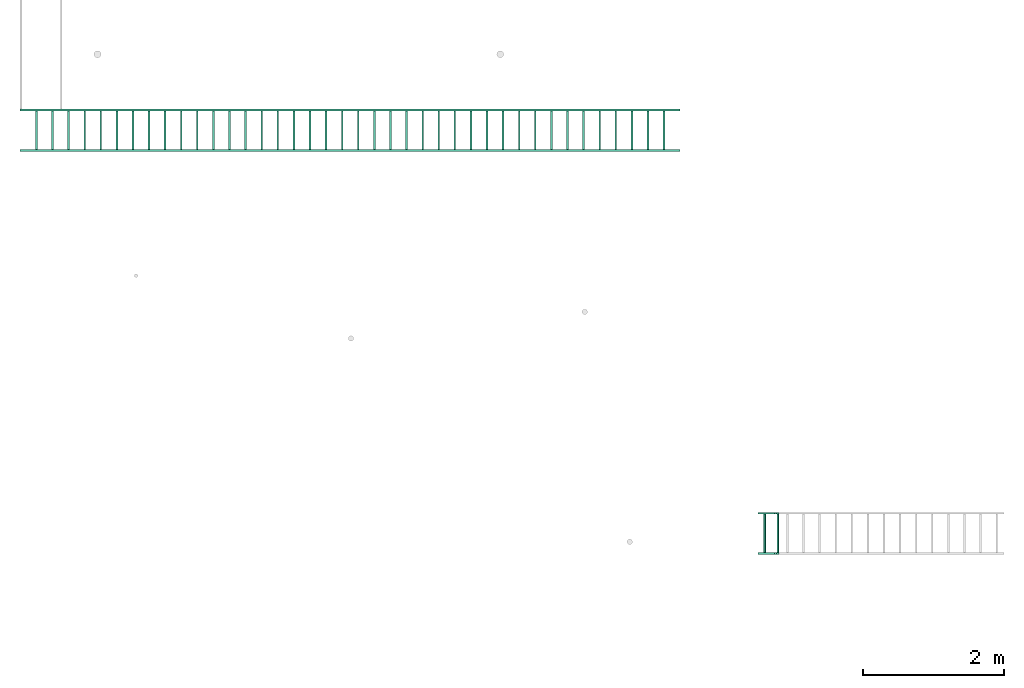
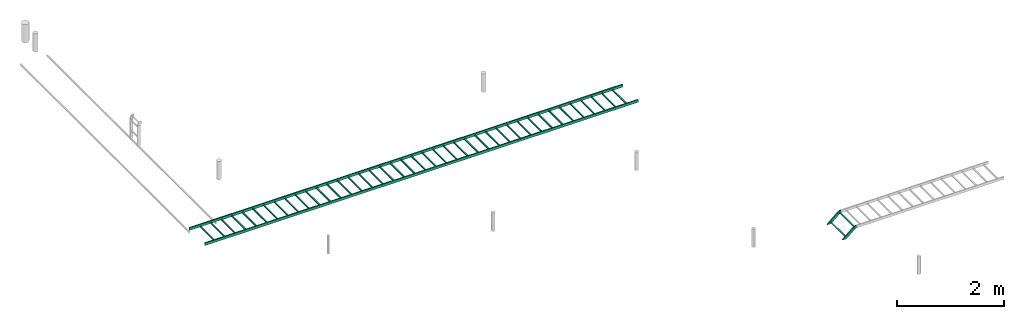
# One storey, part 2 of 5: 2 flow segments, 1 flow fitting.
"""IFC2X3 building model written with IfcOpenShell, lengths in millimetres."""

from ifc_helpers import new_model, entity, si_unit, converted_unit, derived_unit, direction, frame, origin_with_axes, place, context, subcontext, project, spatial, open_shell, faceted_brep, surface_model, source, transform, mapped, type_object, element, save


model = new_model("IFC2X3")

# Units and contexts
model_context = context("Model", 3, precision=0.01, world=frame((0.0, 4.29681676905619e-09, 0.0)), true_north=direction((4.01073788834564e-13, 1.0)))
plan_context = context("Plan", 3, precision=0.01, world=frame((0.0, 4.29681676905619e-09, 0.0)), true_north=direction((4.01073788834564e-13, 1.0)))
body_context = subcontext(model_context, "Body", "Model", "MODEL_VIEW")
ifc_project = project(units=[converted_unit("PLANEANGLEUNIT", "DEGREE", entity("IfcPositiveLengthMeasure", 0.0174532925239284), si_unit("PLANEANGLEUNIT", "RADIAN"), dimensions=[0, 0, 0, 0, 0, 0, 0]), si_unit("AREAUNIT", "SQUARE_METRE"), si_unit("LENGTHUNIT", "METRE", prefix="MILLI"), si_unit("MASSUNIT", "GRAM", prefix="KILO"), si_unit("POWERUNIT", "WATT"), si_unit("PRESSUREUNIT", "PASCAL"), si_unit("FORCEUNIT", "NEWTON", prefix="KILO"), si_unit("ELECTRICCURRENTUNIT", "AMPERE"), si_unit("THERMODYNAMICTEMPERATUREUNIT", "DEGREE_CELSIUS"), si_unit("TIMEUNIT", "SECOND"), si_unit("VOLUMEUNIT", "CUBIC_METRE"), derived_unit("LINEARVELOCITYUNIT", [(si_unit("LENGTHUNIT", "METRE"), 1), (si_unit("TIMEUNIT", "SECOND"), -1)]), derived_unit("VOLUMETRICFLOWRATEUNIT", [(si_unit("VOLUMEUNIT", "CUBIC_METRE"), 1), (si_unit("TIMEUNIT", "SECOND"), -1)]), derived_unit("THERMALTRANSMITTANCEUNIT", [(si_unit("POWERUNIT", "WATT"), 1), (si_unit("THERMODYNAMICTEMPERATUREUNIT", "KELVIN"), -1), (si_unit("AREAUNIT", "SQUARE_METRE"), -1)])], contexts=[model_context, plan_context])

# Site, building, storey
site_placement = place(None, frame((0.0, -4.29681676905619e-09, 0.0), z_axis=(0.0, 0.0, 1.0), x_axis=(1.0, 0.0, 0.0)))
site = spatial("IfcSite", under=ifc_project, at=site_placement, Name="ENGM", CompositionType="ELEMENT")
building_placement = place(site_placement, frame((0.0, 4.29681676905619e-09, 0.0), z_axis=(0.0, 0.0, 1.0), x_axis=(1.0, 0.0, 0.0)))
building = spatial("IfcBuilding", under=site, at=building_placement, Name="TS", CompositionType="ELEMENT")
storey_placement = place(building_placement, frame((0.0, 0.0, 200300.0), z_axis=(0.0, 0.0, 1.0), x_axis=(1.0, 0.0, 0.0)))
storey = spatial("IfcBuildingStorey", under=building, at=storey_placement, Name="Nivå C", CompositionType="ELEMENT", Elevation=200300.0)

# Flow fitting
cable_carrier_fitting_type = type_object("IfcCableCarrierFittingType", Name="Standard 10mm", PredefinedType="BEND")
shared_shape_1 = source(origin_with_axes(), body_context, "Body", "SurfaceModel", [
    surface_model("IfcShellBasedSurfaceModel", [(0.44242, 35.08091, 274.60001), (9.33769, 11.28944, -274.60001), (0.44242, 35.08091, -274.60001), (9.33769, 11.28944, 274.60001), (-14.45378, 2.39417, 274.60001), (-14.45378, 2.39417, -274.60001), (-23.34905, 26.18565, -274.60001), (-23.34905, 26.18565, 274.60001), (-24.95539, 30.0, 300.0), (-24.95539, 30.0, 274.60001), (-24.95539, -30.0, 274.60001), (-24.95539, -30.0, 300.0), (-24.95539, 30.0, -274.60001), (-24.95539, 30.0, -300.0), (-24.95539, -30.0, -300.0), (-24.95539, -30.0, -274.60001), (-14.95539, 30.0, 274.60001), (-14.95539, 30.0, 300.0), (-14.95539, -30.0, 274.60001), (-11.45331, 30.63328, 274.60001), (9.55913, -25.56705, 274.60001), (-8.3948, 32.4529, 274.60001), (-0.8477, 39.01349, 274.60001), (30.96874, -12.82967, 274.60001), (38.51584, -6.26908, 274.60001), (-14.95539, -30.0, 300.0), (-11.45331, 30.63328, 300.0), (9.55913, -25.56705, 300.0), (30.96874, -12.82967, 300.0), (-8.3948, 32.4529, 300.0), (-0.8477, 39.01349, 300.0), (38.51584, -6.26908, 300.0), (-14.95539, 30.0, -300.0), (-14.95539, 30.0, -274.60001), (-14.95539, -30.0, -300.0), (-11.45331, 30.63328, -300.0), (9.55913, -25.56705, -300.0), (-8.3948, 32.4529, -300.0), (-0.8477, 39.01349, -300.0), (30.96874, -12.82967, -300.0), (38.51584, -6.26908, -300.0), (-14.95539, -30.0, -274.60001), (-11.45331, 30.63328, -274.60001), (9.55913, -25.56705, -274.60001), (30.96874, -12.82967, -274.60001), (-8.3948, 32.4529, -274.60001), (-0.8477, 39.01349, -274.60001), (38.51584, -6.26908, -274.60001), (-2.69813, -27.78353, 300.0), (-2.69813, -27.78353, 274.60001), (15.954, -21.7625, 274.60001), (20.26394, -19.19836, 300.0), (2.23685, -26.89114, -300.0), (-2.69813, -27.78353, -274.60001), (20.26394, -19.19836, -274.60001), (20.26394, -19.19836, -300.0)], [open_shell([[[0, 1, 2]], [[1, 0, 3]], [[1, 3, 4]], [[4, 5, 1]], [[2, 1, 5]], [[5, 6, 2]], [[0, 2, 6]], [[6, 7, 0]], [[3, 0, 7]], [[7, 4, 3]], [[6, 5, 7]], [[4, 7, 5]], [[8, 9, 10]], [[10, 11, 8]], [[12, 13, 14]], [[14, 15, 12]], [[9, 8, 16]], [[17, 16, 8]], [[9, 18, 10]], [[18, 9, 16]], [[18, 16, 19]], [[19, 20, 18]], [[21, 22, 23]], [[23, 20, 19]], [[23, 22, 24]], [[23, 19, 21]], [[11, 10, 18]], [[18, 25, 11]], [[11, 25, 8]], [[17, 8, 25]], [[26, 17, 25]], [[25, 27, 26]], [[28, 29, 26]], [[28, 30, 29]], [[30, 28, 31]], [[28, 26, 27]], [[13, 12, 32]], [[33, 32, 12]], [[13, 34, 14]], [[34, 13, 32]], [[34, 32, 35]], [[35, 36, 34]], [[37, 38, 39]], [[39, 36, 35]], [[39, 38, 40]], [[39, 35, 37]], [[15, 14, 34]], [[34, 41, 15]], [[15, 41, 12]], [[33, 12, 41]], [[42, 33, 41]], [[41, 43, 42]], [[44, 45, 42]], [[44, 46, 45]], [[46, 44, 47]], [[44, 42, 43]], [[26, 16, 17]], [[19, 16, 26]], [[29, 21, 19]], [[26, 29, 19]], [[18, 48, 25]], [[49, 27, 48]], [[27, 49, 20]], [[27, 50, 51]], [[23, 28, 51]], [[50, 27, 20]], [[23, 51, 50]], [[18, 49, 48]], [[33, 35, 32]], [[42, 35, 33]], [[45, 37, 42]], [[35, 42, 37]], [[43, 52, 36]], [[34, 52, 53]], [[41, 34, 53]], [[52, 43, 53]], [[54, 43, 55]], [[39, 44, 54]], [[39, 54, 55]], [[43, 36, 55]], [[24, 22, 30]], [[30, 31, 24]], [[40, 38, 47]], [[46, 47, 38]], [[21, 29, 30]], [[30, 22, 21]], [[28, 23, 24]], [[24, 31, 28]], [[37, 45, 46]], [[46, 38, 37]], [[44, 39, 47]], [[40, 47, 39]]])]),
])
flow_fitting_placement = place(storey_placement, frame((528876.62355, 407969.86579, 2900.0), z_axis=(0.0, -1.0, 0.0), x_axis=(-1.0, 0.0, 0.0)))
element("IfcFlowFitting", 1, at=flow_fitting_placement, inside=storey, type_object=cable_carrier_fitting_type, Name="Standard 10mm", context=body_context, shape_type="MappedRepresentation", body=[
    mapped(shared_shape_1, transform((0.0, 0.0, 0.0), scale=1.0)),
])

# Flow segments
cable_carrier_segment_type = type_object("IfcCableCarrierSegmentType", Name="Kabelbro", PredefinedType="CABLELADDERSEGMENT")
shared_shape_2 = source(origin_with_axes(), body_context, "Body", "SurfaceModel", [
    surface_model("IfcShellBasedSurfaceModel", [(241.30001, -274.60001, -4.6), (241.30001, -274.60001, -30.0), (241.30001, 274.60001, -4.6), (241.30001, 274.60001, -30.0), (215.89999, -274.60001, -4.6), (215.89999, 274.60001, -4.6), (215.89999, -274.60001, -30.0), (215.89999, 274.60001, -30.0), (469.89999, -274.60001, -4.6), (469.89999, -274.60001, -30.0), (469.89999, 274.60001, -4.6), (469.89999, 274.60001, -30.0), (444.50001, -274.60001, -4.6), (444.50001, 274.60001, -4.6), (444.50001, -274.60001, -30.0), (444.50001, 274.60001, -30.0), (698.50002, -274.60001, -4.6), (698.50002, -274.60001, -30.0), (698.50002, 274.60001, -4.6), (698.50002, 274.60001, -30.0), (673.09998, -274.60001, -4.6), (673.09998, 274.60001, -4.6), (673.09998, -274.60001, -30.0), (673.09998, 274.60001, -30.0), (927.10002, -274.60001, -4.6), (927.10002, -274.60001, -30.0), (927.10002, 274.60001, -4.6), (927.10002, 274.60001, -30.0), (901.69998, -274.60001, -4.6), (901.69998, 274.60001, -4.6), (901.69998, -274.60001, -30.0), (901.69998, 274.60001, -30.0), (1155.70002, -274.60001, -4.6), (1155.70002, -274.60001, -30.0), (1155.70002, 274.60001, -4.6), (1155.70002, 274.60001, -30.0), (1130.29998, -274.60001, -4.6), (1130.29998, 274.60001, -4.6), (1130.29998, -274.60001, -30.0), (1130.29998, 274.60001, -30.0), (1384.29995, -274.60001, -4.6), (1384.29995, -274.60001, -30.0), (1384.29995, 274.60001, -4.6), (1384.29995, 274.60001, -30.0), (1358.90005, -274.60001, -4.6), (1358.90005, 274.60001, -4.6), (1358.90005, -274.60001, -30.0), (1358.90005, 274.60001, -30.0), (1612.89995, -274.60001, -4.6), (1612.89995, -274.60001, -30.0), (1612.89995, 274.60001, -4.6), (1612.89995, 274.60001, -30.0), (1587.50005, -274.60001, -4.6), (1587.50005, 274.60001, -4.6), (1587.50005, -274.60001, -30.0), (1587.50005, 274.60001, -30.0), (1841.49995, -274.60001, -4.6), (1841.49995, -274.60001, -30.0), (1841.49995, 274.60001, -4.6), (1841.49995, 274.60001, -30.0), (1816.10005, -274.60001, -4.6), (1816.10005, 274.60001, -4.6), (1816.10005, -274.60001, -30.0), (1816.10005, 274.60001, -30.0), (2070.09995, -274.60001, -4.6), (2070.09995, -274.60001, -30.0), (2070.09995, 274.60001, -4.6), (2070.09995, 274.60001, -30.0), (2044.70005, -274.60001, -4.6), (2044.70005, 274.60001, -4.6), (2044.70005, -274.60001, -30.0), (2044.70005, 274.60001, -30.0), (2298.69995, -274.60001, -4.6), (2298.69995, -274.60001, -30.0), (2298.69995, 274.60001, -4.6), (2298.69995, 274.60001, -30.0), (2273.30005, -274.60001, -4.6), (2273.30005, 274.60001, -4.6), (2273.30005, -274.60001, -30.0), (2273.30005, 274.60001, -30.0), (2527.3001, -274.60001, -4.6), (2527.3001, -274.60001, -30.0), (2527.3001, 274.60001, -4.6), (2527.3001, 274.60001, -30.0), (2501.8999, -274.60001, -4.6), (2501.8999, 274.60001, -4.6), (2501.8999, -274.60001, -30.0), (2501.8999, 274.60001, -30.0), (2755.9001, -274.60001, -4.6), (2755.9001, -274.60001, -30.0), (2755.9001, 274.60001, -4.6), (2755.9001, 274.60001, -30.0), (2730.4999, -274.60001, -4.6), (2730.4999, 274.60001, -4.6), (2730.4999, -274.60001, -30.0), (2730.4999, 274.60001, -30.0), (2984.5001, -274.60001, -4.6), (2984.5001, -274.60001, -30.0), (2984.5001, 274.60001, -4.6), (2984.5001, 274.60001, -30.0), (2959.0999, -274.60001, -4.6), (2959.0999, 274.60001, -4.6), (2959.0999, -274.60001, -30.0), (2959.0999, 274.60001, -30.0), (3213.1001, -274.60001, -4.6), (3213.1001, -274.60001, -30.0), (3213.1001, 274.60001, -4.6), (3213.1001, 274.60001, -30.0), (3187.6999, -274.60001, -4.6), (3187.6999, 274.60001, -4.6), (3187.6999, -274.60001, -30.0), (3187.6999, 274.60001, -30.0), (3441.7001, -274.60001, -4.6), (3441.7001, -274.60001, -30.0), (3441.7001, 274.60001, -4.6), (3441.7001, 274.60001, -30.0), (3416.2999, -274.60001, -4.6), (3416.2999, 274.60001, -4.6), (3416.2999, -274.60001, -30.0), (3416.2999, 274.60001, -30.0), (3670.3001, -274.60001, -4.6), (3670.3001, -274.60001, -30.0), (3670.3001, 274.60001, -4.6), (3670.3001, 274.60001, -30.0), (3644.8999, -274.60001, -4.6), (3644.8999, 274.60001, -4.6), (3644.8999, -274.60001, -30.0), (3644.8999, 274.60001, -30.0), (3898.9001, -274.60001, -4.6), (3898.9001, -274.60001, -30.0), (3898.9001, 274.60001, -4.6), (3898.9001, 274.60001, -30.0), (3873.4999, -274.60001, -4.6), (3873.4999, 274.60001, -4.6), (3873.4999, -274.60001, -30.0), (3873.4999, 274.60001, -30.0), (4127.5001, -274.60001, -4.6), (4127.5001, -274.60001, -30.0), (4127.5001, 274.60001, -4.6), (4127.5001, 274.60001, -30.0), (4102.0999, -274.60001, -4.6), (4102.0999, 274.60001, -4.6), (4102.0999, -274.60001, -30.0), (4102.0999, 274.60001, -30.0), (4356.1001, -274.60001, -4.6), (4356.1001, -274.60001, -30.0), (4356.1001, 274.60001, -4.6), (4356.1001, 274.60001, -30.0), (4330.6999, -274.60001, -4.6), (4330.6999, 274.60001, -4.6), (4330.6999, -274.60001, -30.0), (4330.6999, 274.60001, -30.0), (4584.7001, -274.60001, -4.6), (4584.7001, -274.60001, -30.0), (4584.7001, 274.60001, -4.6), (4584.7001, 274.60001, -30.0), (4559.2999, -274.60001, -4.6), (4559.2999, 274.60001, -4.6), (4559.2999, -274.60001, -30.0), (4559.2999, 274.60001, -30.0), (4813.3001, -274.60001, -4.6), (4813.3001, -274.60001, -30.0), (4813.3001, 274.60001, -4.6), (4813.3001, 274.60001, -30.0), (4787.8999, -274.60001, -4.6), (4787.8999, 274.60001, -4.6), (4787.8999, -274.60001, -30.0), (4787.8999, 274.60001, -30.0), (5041.89981, -274.60001, -4.6), (5041.89981, -274.60001, -30.0), (5041.89981, 274.60001, -4.6), (5041.89981, 274.60001, -30.0), (5016.50019, -274.60001, -4.6), (5016.50019, 274.60001, -4.6), (5016.50019, -274.60001, -30.0), (5016.50019, 274.60001, -30.0), (5270.49981, -274.60001, -4.6), (5270.49981, -274.60001, -30.0), (5270.49981, 274.60001, -4.6), (5270.49981, 274.60001, -30.0), (5245.10019, -274.60001, -4.6), (5245.10019, 274.60001, -4.6), (5245.10019, -274.60001, -30.0), (5245.10019, 274.60001, -30.0), (5499.09981, -274.60001, -4.6), (5499.09981, -274.60001, -30.0), (5499.09981, 274.60001, -4.6), (5499.09981, 274.60001, -30.0), (5473.70019, -274.60001, -4.6), (5473.70019, 274.60001, -4.6), (5473.70019, -274.60001, -30.0), (5473.70019, 274.60001, -30.0), (5727.69981, -274.60001, -4.6), (5727.69981, -274.60001, -30.0), (5727.69981, 274.60001, -4.6), (5727.69981, 274.60001, -30.0), (5702.30019, -274.60001, -4.6), (5702.30019, 274.60001, -4.6), (5702.30019, -274.60001, -30.0), (5702.30019, 274.60001, -30.0), (5956.29981, -274.60001, -4.6), (5956.29981, -274.60001, -30.0), (5956.29981, 274.60001, -4.6), (5956.29981, 274.60001, -30.0), (5930.90019, -274.60001, -4.6), (5930.90019, 274.60001, -4.6), (5930.90019, -274.60001, -30.0), (5930.90019, 274.60001, -30.0), (6184.89981, -274.60001, -4.6), (6184.89981, -274.60001, -30.0), (6184.89981, 274.60001, -4.6), (6184.89981, 274.60001, -30.0), (6159.50019, -274.60001, -4.6), (6159.50019, 274.60001, -4.6), (6159.50019, -274.60001, -30.0), (6159.50019, 274.60001, -30.0), (6413.49981, -274.60001, -4.6), (6413.49981, -274.60001, -30.0), (6413.49981, 274.60001, -4.6), (6413.49981, 274.60001, -30.0), (6388.10019, -274.60001, -4.6), (6388.10019, 274.60001, -4.6), (6388.10019, -274.60001, -30.0), (6388.10019, 274.60001, -30.0), (6642.09981, -274.60001, -4.6), (6642.09981, -274.60001, -30.0), (6642.09981, 274.60001, -4.6), (6642.09981, 274.60001, -30.0), (6616.70019, -274.60001, -4.6), (6616.70019, 274.60001, -4.6), (6616.70019, -274.60001, -30.0), (6616.70019, 274.60001, -30.0), (6870.69981, -274.60001, -4.6), (6870.69981, -274.60001, -30.0), (6870.69981, 274.60001, -4.6), (6870.69981, 274.60001, -30.0), (6845.30019, -274.60001, -4.6), (6845.30019, 274.60001, -4.6), (6845.30019, -274.60001, -30.0), (6845.30019, 274.60001, -30.0), (7099.29981, -274.60001, -4.6), (7099.29981, -274.60001, -30.0), (7099.29981, 274.60001, -4.6), (7099.29981, 274.60001, -30.0), (7073.90019, -274.60001, -4.6), (7073.90019, 274.60001, -4.6), (7073.90019, -274.60001, -30.0), (7073.90019, 274.60001, -30.0), (7327.89981, -274.60001, -4.6), (7327.89981, -274.60001, -30.0), (7327.89981, 274.60001, -4.6), (7327.89981, 274.60001, -30.0), (7302.50019, -274.60001, -4.6), (7302.50019, 274.60001, -4.6), (7302.50019, -274.60001, -30.0), (7302.50019, 274.60001, -30.0), (7556.49981, -274.60001, -4.6), (7556.49981, -274.60001, -30.0), (7556.49981, 274.60001, -4.6), (7556.49981, 274.60001, -30.0), (7531.10019, -274.60001, -4.6), (7531.10019, 274.60001, -4.6), (7531.10019, -274.60001, -30.0), (7531.10019, 274.60001, -30.0), (7785.09981, -274.60001, -4.6), (7785.09981, -274.60001, -30.0), (7785.09981, 274.60001, -4.6), (7785.09981, 274.60001, -30.0), (7759.70019, -274.60001, -4.6), (7759.70019, 274.60001, -4.6), (7759.70019, -274.60001, -30.0), (7759.70019, 274.60001, -30.0), (8013.69981, -274.60001, -4.6), (8013.69981, -274.60001, -30.0), (8013.69981, 274.60001, -4.6), (8013.69981, 274.60001, -30.0), (7988.30019, -274.60001, -4.6), (7988.30019, 274.60001, -4.6), (7988.30019, -274.60001, -30.0), (7988.30019, 274.60001, -30.0), (8242.29981, -274.60001, -4.6), (8242.29981, -274.60001, -30.0), (8242.29981, 274.60001, -4.6), (8242.29981, 274.60001, -30.0), (8216.90019, -274.60001, -4.6), (8216.90019, 274.60001, -4.6), (8216.90019, -274.60001, -30.0), (8216.90019, 274.60001, -30.0), (8470.89981, -274.60001, -4.6), (8470.89981, -274.60001, -30.0), (8470.89981, 274.60001, -4.6), (8470.89981, 274.60001, -30.0), (8445.50019, -274.60001, -4.6), (8445.50019, 274.60001, -4.6), (8445.50019, -274.60001, -30.0), (8445.50019, 274.60001, -30.0), (8699.49981, -274.60001, -4.6), (8699.49981, -274.60001, -30.0), (8699.49981, 274.60001, -4.6), (8699.49981, 274.60001, -30.0), (8674.10019, -274.60001, -4.6), (8674.10019, 274.60001, -4.6), (8674.10019, -274.60001, -30.0), (8674.10019, 274.60001, -30.0), (8928.09981, -274.60001, -4.6), (8928.09981, -274.60001, -30.0), (8928.09981, 274.60001, -4.6), (8928.09981, 274.60001, -30.0), (8902.70019, -274.60001, -4.6), (8902.70019, 274.60001, -4.6), (8902.70019, -274.60001, -30.0), (8902.70019, 274.60001, -30.0), (9156.69981, -274.60001, -4.6), (9156.69981, -274.60001, -30.0), (9156.69981, 274.60001, -4.6), (9156.69981, 274.60001, -30.0), (9131.30019, -274.60001, -4.6), (9131.30019, 274.60001, -4.6), (9131.30019, -274.60001, -30.0), (9131.30019, 274.60001, -30.0), (0.0, -274.60001, -30.0), (0.0, -300.0, -30.0), (0.0, -300.0, 30.0), (0.0, -274.60001, 30.0), (0.0, 300.0, -30.0), (0.0, 274.60001, -30.0), (0.0, 274.60001, 30.0), (0.0, 300.0, 30.0), (9376.70905, -300.0, 30.0), (9376.70905, -300.0, -30.0), (9376.70905, -274.60001, -30.0), (9376.70905, -274.60001, 30.0), (9376.70905, 274.60001, 30.0), (9376.70905, 274.60001, -30.0), (9376.70905, 300.0, -30.0), (9376.70905, 300.0, 30.0)], [open_shell([[[0, 1, 2]], [[3, 2, 1]], [[4, 0, 5]], [[2, 5, 0]], [[6, 4, 7]], [[5, 7, 4]], [[1, 6, 3]], [[7, 3, 6]], [[8, 9, 10]], [[11, 10, 9]], [[12, 8, 13]], [[10, 13, 8]], [[14, 12, 15]], [[13, 15, 12]], [[9, 14, 11]], [[15, 11, 14]], [[16, 17, 18]], [[19, 18, 17]], [[20, 16, 21]], [[18, 21, 16]], [[22, 20, 23]], [[21, 23, 20]], [[17, 22, 19]], [[23, 19, 22]], [[24, 25, 26]], [[27, 26, 25]], [[28, 24, 29]], [[26, 29, 24]], [[30, 28, 31]], [[29, 31, 28]], [[25, 30, 27]], [[31, 27, 30]], [[32, 33, 34]], [[35, 34, 33]], [[36, 32, 37]], [[34, 37, 32]], [[38, 36, 39]], [[37, 39, 36]], [[33, 38, 35]], [[39, 35, 38]], [[40, 41, 42]], [[43, 42, 41]], [[44, 40, 45]], [[42, 45, 40]], [[46, 44, 47]], [[45, 47, 44]], [[41, 46, 43]], [[47, 43, 46]], [[48, 49, 50]], [[51, 50, 49]], [[52, 48, 53]], [[50, 53, 48]], [[54, 52, 55]], [[53, 55, 52]], [[49, 54, 51]], [[55, 51, 54]], [[56, 57, 58]], [[59, 58, 57]], [[60, 56, 61]], [[58, 61, 56]], [[62, 60, 63]], [[61, 63, 60]], [[57, 62, 59]], [[63, 59, 62]], [[64, 65, 66]], [[67, 66, 65]], [[68, 64, 69]], [[66, 69, 64]], [[70, 68, 71]], [[69, 71, 68]], [[65, 70, 67]], [[71, 67, 70]], [[72, 73, 74]], [[75, 74, 73]], [[76, 72, 77]], [[74, 77, 72]], [[78, 76, 79]], [[77, 79, 76]], [[73, 78, 75]], [[79, 75, 78]], [[80, 81, 82]], [[83, 82, 81]], [[84, 80, 85]], [[82, 85, 80]], [[86, 84, 87]], [[85, 87, 84]], [[81, 86, 83]], [[87, 83, 86]], [[88, 89, 90]], [[91, 90, 89]], [[92, 88, 93]], [[90, 93, 88]], [[94, 92, 95]], [[93, 95, 92]], [[89, 94, 91]], [[95, 91, 94]], [[96, 97, 98]], [[99, 98, 97]], [[100, 96, 101]], [[98, 101, 96]], [[102, 100, 103]], [[101, 103, 100]], [[97, 102, 99]], [[103, 99, 102]], [[104, 105, 106]], [[107, 106, 105]], [[108, 104, 109]], [[106, 109, 104]], [[110, 108, 111]], [[109, 111, 108]], [[105, 110, 107]], [[111, 107, 110]], [[112, 113, 114]], [[115, 114, 113]], [[116, 112, 117]], [[114, 117, 112]], [[118, 116, 119]], [[117, 119, 116]], [[113, 118, 115]], [[119, 115, 118]], [[120, 121, 122]], [[123, 122, 121]], [[124, 120, 125]], [[122, 125, 120]], [[126, 124, 127]], [[125, 127, 124]], [[121, 126, 123]], [[127, 123, 126]], [[128, 129, 130]], [[131, 130, 129]], [[132, 128, 133]], [[130, 133, 128]], [[134, 132, 135]], [[133, 135, 132]], [[129, 134, 131]], [[135, 131, 134]], [[136, 137, 138]], [[139, 138, 137]], [[140, 136, 141]], [[138, 141, 136]], [[142, 140, 143]], [[141, 143, 140]], [[137, 142, 139]], [[143, 139, 142]], [[144, 145, 146]], [[147, 146, 145]], [[148, 144, 149]], [[146, 149, 144]], [[150, 148, 151]], [[149, 151, 148]], [[145, 150, 147]], [[151, 147, 150]], [[152, 153, 154]], [[155, 154, 153]], [[156, 152, 157]], [[154, 157, 152]], [[158, 156, 159]], [[157, 159, 156]], [[153, 158, 155]], [[159, 155, 158]], [[160, 161, 162]], [[163, 162, 161]], [[164, 160, 165]], [[162, 165, 160]], [[166, 164, 167]], [[165, 167, 164]], [[161, 166, 163]], [[167, 163, 166]], [[168, 169, 170]], [[171, 170, 169]], [[172, 168, 173]], [[170, 173, 168]], [[174, 172, 175]], [[173, 175, 172]], [[169, 174, 171]], [[175, 171, 174]], [[176, 177, 178]], [[179, 178, 177]], [[180, 176, 181]], [[178, 181, 176]], [[182, 180, 183]], [[181, 183, 180]], [[177, 182, 179]], [[183, 179, 182]], [[184, 185, 186]], [[187, 186, 185]], [[188, 184, 189]], [[186, 189, 184]], [[190, 188, 191]], [[189, 191, 188]], [[185, 190, 187]], [[191, 187, 190]], [[192, 193, 194]], [[195, 194, 193]], [[196, 192, 197]], [[194, 197, 192]], [[198, 196, 199]], [[197, 199, 196]], [[193, 198, 195]], [[199, 195, 198]], [[200, 201, 202]], [[203, 202, 201]], [[204, 200, 205]], [[202, 205, 200]], [[206, 204, 207]], [[205, 207, 204]], [[201, 206, 203]], [[207, 203, 206]], [[208, 209, 210]], [[211, 210, 209]], [[212, 208, 213]], [[210, 213, 208]], [[214, 212, 215]], [[213, 215, 212]], [[209, 214, 211]], [[215, 211, 214]], [[216, 217, 218]], [[219, 218, 217]], [[220, 216, 221]], [[218, 221, 216]], [[222, 220, 223]], [[221, 223, 220]], [[217, 222, 219]], [[223, 219, 222]], [[224, 225, 226]], [[227, 226, 225]], [[228, 224, 229]], [[226, 229, 224]], [[230, 228, 231]], [[229, 231, 228]], [[225, 230, 227]], [[231, 227, 230]], [[232, 233, 234]], [[235, 234, 233]], [[236, 232, 237]], [[234, 237, 232]], [[238, 236, 239]], [[237, 239, 236]], [[233, 238, 235]], [[239, 235, 238]], [[240, 241, 242]], [[243, 242, 241]], [[244, 240, 245]], [[242, 245, 240]], [[246, 244, 247]], [[245, 247, 244]], [[241, 246, 243]], [[247, 243, 246]], [[248, 249, 250]], [[251, 250, 249]], [[252, 248, 253]], [[250, 253, 248]], [[254, 252, 255]], [[253, 255, 252]], [[249, 254, 251]], [[255, 251, 254]], [[256, 257, 258]], [[259, 258, 257]], [[260, 256, 261]], [[258, 261, 256]], [[262, 260, 263]], [[261, 263, 260]], [[257, 262, 259]], [[263, 259, 262]], [[264, 265, 266]], [[267, 266, 265]], [[268, 264, 269]], [[266, 269, 264]], [[270, 268, 271]], [[269, 271, 268]], [[265, 270, 267]], [[271, 267, 270]], [[272, 273, 274]], [[275, 274, 273]], [[276, 272, 277]], [[274, 277, 272]], [[278, 276, 279]], [[277, 279, 276]], [[273, 278, 275]], [[279, 275, 278]], [[280, 281, 282]], [[283, 282, 281]], [[284, 280, 285]], [[282, 285, 280]], [[286, 284, 287]], [[285, 287, 284]], [[281, 286, 283]], [[287, 283, 286]], [[288, 289, 290]], [[291, 290, 289]], [[292, 288, 293]], [[290, 293, 288]], [[294, 292, 295]], [[293, 295, 292]], [[289, 294, 291]], [[295, 291, 294]], [[296, 297, 298]], [[299, 298, 297]], [[300, 296, 301]], [[298, 301, 296]], [[302, 300, 303]], [[301, 303, 300]], [[297, 302, 299]], [[303, 299, 302]], [[304, 305, 306]], [[307, 306, 305]], [[308, 304, 309]], [[306, 309, 304]], [[310, 308, 311]], [[309, 311, 308]], [[305, 310, 307]], [[311, 307, 310]], [[312, 313, 314]], [[315, 314, 313]], [[316, 312, 317]], [[314, 317, 312]], [[318, 316, 319]], [[317, 319, 316]], [[313, 318, 315]], [[319, 315, 318]], [[320, 321, 322]], [[322, 323, 320]], [[324, 325, 326]], [[326, 327, 324]], [[1, 0, 4]], [[4, 6, 1]], [[5, 2, 3]], [[3, 7, 5]], [[9, 8, 12]], [[12, 14, 9]], [[13, 10, 11]], [[11, 15, 13]], [[17, 16, 20]], [[20, 22, 17]], [[21, 18, 19]], [[19, 23, 21]], [[25, 24, 28]], [[28, 30, 25]], [[29, 26, 27]], [[27, 31, 29]], [[33, 32, 36]], [[36, 38, 33]], [[37, 34, 35]], [[35, 39, 37]], [[41, 40, 44]], [[44, 46, 41]], [[45, 42, 43]], [[43, 47, 45]], [[49, 48, 52]], [[52, 54, 49]], [[53, 50, 51]], [[51, 55, 53]], [[57, 56, 60]], [[60, 62, 57]], [[61, 58, 59]], [[59, 63, 61]], [[65, 64, 68]], [[68, 70, 65]], [[69, 66, 67]], [[67, 71, 69]], [[73, 72, 76]], [[76, 78, 73]], [[77, 74, 75]], [[75, 79, 77]], [[81, 80, 84]], [[84, 86, 81]], [[85, 82, 83]], [[83, 87, 85]], [[89, 88, 92]], [[92, 94, 89]], [[93, 90, 91]], [[91, 95, 93]], [[97, 96, 100]], [[100, 102, 97]], [[101, 98, 99]], [[99, 103, 101]], [[105, 104, 108]], [[108, 110, 105]], [[109, 106, 107]], [[107, 111, 109]], [[113, 112, 116]], [[116, 118, 113]], [[117, 114, 115]], [[115, 119, 117]], [[121, 120, 124]], [[124, 126, 121]], [[125, 122, 123]], [[123, 127, 125]], [[129, 128, 132]], [[132, 134, 129]], [[133, 130, 131]], [[131, 135, 133]], [[137, 136, 140]], [[140, 142, 137]], [[141, 138, 139]], [[139, 143, 141]], [[145, 144, 148]], [[148, 150, 145]], [[149, 146, 147]], [[147, 151, 149]], [[153, 152, 156]], [[156, 158, 153]], [[157, 154, 155]], [[155, 159, 157]], [[161, 160, 164]], [[164, 166, 161]], [[165, 162, 163]], [[163, 167, 165]], [[169, 168, 172]], [[172, 174, 169]], [[173, 170, 171]], [[171, 175, 173]], [[177, 176, 180]], [[180, 182, 177]], [[181, 178, 179]], [[179, 183, 181]], [[185, 184, 188]], [[188, 190, 185]], [[189, 186, 187]], [[187, 191, 189]], [[193, 192, 196]], [[196, 198, 193]], [[197, 194, 195]], [[195, 199, 197]], [[201, 200, 204]], [[204, 206, 201]], [[205, 202, 203]], [[203, 207, 205]], [[209, 208, 212]], [[212, 214, 209]], [[213, 210, 211]], [[211, 215, 213]], [[217, 216, 220]], [[220, 222, 217]], [[221, 218, 219]], [[219, 223, 221]], [[225, 224, 228]], [[228, 230, 225]], [[229, 226, 227]], [[227, 231, 229]], [[233, 232, 236]], [[236, 238, 233]], [[237, 234, 235]], [[235, 239, 237]], [[241, 240, 244]], [[244, 246, 241]], [[245, 242, 243]], [[243, 247, 245]], [[249, 248, 252]], [[252, 254, 249]], [[253, 250, 251]], [[251, 255, 253]], [[257, 256, 260]], [[260, 262, 257]], [[261, 258, 259]], [[259, 263, 261]], [[265, 264, 268]], [[268, 270, 265]], [[269, 266, 267]], [[267, 271, 269]], [[273, 272, 276]], [[276, 278, 273]], [[277, 274, 275]], [[275, 279, 277]], [[281, 280, 284]], [[284, 286, 281]], [[285, 282, 283]], [[283, 287, 285]], [[289, 288, 292]], [[292, 294, 289]], [[293, 290, 291]], [[291, 295, 293]], [[297, 296, 300]], [[300, 302, 297]], [[301, 298, 299]], [[299, 303, 301]], [[305, 304, 308]], [[308, 310, 305]], [[309, 306, 307]], [[307, 311, 309]], [[313, 312, 316]], [[316, 318, 313]], [[317, 314, 315]], [[315, 319, 317]], [[328, 329, 330]], [[330, 331, 328]], [[332, 333, 334]], [[334, 335, 332]], [[322, 321, 329]], [[329, 328, 322]], [[323, 322, 331]], [[328, 331, 322]], [[320, 323, 331]], [[331, 330, 320]], [[321, 320, 329]], [[330, 329, 320]], [[324, 327, 335]], [[335, 334, 324]], [[325, 324, 333]], [[334, 333, 324]], [[326, 325, 333]], [[333, 332, 326]], [[327, 326, 335]], [[332, 335, 326]]])]),
])
flow_segment_1_placement = place(storey_placement, frame((527495.43154, 413696.33994, 2800.0), z_axis=(0.0, 0.0, 1.0), x_axis=(-1.0, 0.0, 0.0)))
element("IfcFlowSegment", 2, at=flow_segment_1_placement, inside=storey, type_object=cable_carrier_segment_type, Name="Kabelbro", context=body_context, shape_type="MappedRepresentation", body=[
    mapped(shared_shape_2, transform((0.0, 0.0, 0.0), scale=1.0)),
])
flow_segment_2_placement = place(storey_placement, frame((528857.78948, 407969.86579, 2883.62779), z_axis=(-0.65605880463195, 0.0, 0.754709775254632), x_axis=(-0.754709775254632, 0.0, -0.65605880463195)))
element("IfcFlowSegment", 3, at=flow_segment_2_placement, inside=storey, type_object=cable_carrier_segment_type, Name="Kabelbro", context=body_context, shape_type="Brep", body=[
    faceted_brep([(241.30001, 274.60001, -4.6), (241.30001, -274.60001, -30.0), (241.30001, -274.60001, -4.6), (241.30001, 274.60001, -30.0), (215.89999, 274.60001, -30.0), (215.89999, -274.60001, -4.6), (215.89999, -274.60001, -30.0), (215.89999, 274.60001, -4.6), (0.0, 274.60001, -30.0), (0.0, 300.0, -30.0), (0.0, 274.60001, 30.0), (0.0, 300.0, 30.0), (0.0, -274.60001, 30.0), (0.0, -300.0, 30.0), (0.0, -274.60001, -30.0), (0.0, -300.0, -30.0), (314.406394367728, -300.0, 30.0), (260.677623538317, -300.0, -16.7056798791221), (245.384248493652, -300.0, -30.0), (314.406394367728, -274.60001, 30.0), (314.406394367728, -293.212090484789, 30.0), (260.677623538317, -274.60001, -16.7056798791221), (245.384248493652, -274.60001, -30.0), (245.384248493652, -279.89775872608, -30.0), (260.677623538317, 300.0, -16.7056798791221), (314.406394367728, 300.0, 30.0), (245.384248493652, 300.0, -30.0), (245.384248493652, 274.60001, -30.0), (245.384248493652, 294.70225127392, -30.0), (314.406394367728, 274.60001, 30.0), (260.677623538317, 274.60001, -16.7056798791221), (314.406394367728, 281.387919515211, 30.0)], [[[0, 1, 2]], [[1, 0, 3]], [[4, 5, 6]], [[5, 4, 7]], [[8, 9, 10]], [[11, 10, 9]], [[4, 6, 1]], [[1, 3, 4]], [[12, 13, 14]], [[15, 14, 13]], [[0, 2, 5]], [[5, 7, 0]], [[1, 6, 2]], [[5, 2, 6]], [[0, 4, 3]], [[4, 0, 7]], [[16, 17, 15, 13]], [[17, 18, 15]], [[19, 20, 13, 12]], [[20, 16, 13]], [[21, 19, 12, 14]], [[22, 21, 14]], [[18, 23, 14, 15]], [[23, 22, 14]], [[24, 25, 11, 9]], [[26, 24, 9]], [[27, 28, 9, 8]], [[28, 26, 9]], [[29, 30, 8, 10]], [[30, 27, 8]], [[25, 31, 10, 11]], [[31, 29, 10]], [[20, 19, 21, 22, 23, 18, 17, 16]], [[26, 28, 27, 30, 29, 31, 25, 24]]], orient=[[False], [False], [False], [False], [False], [False], [False], [False], [False], [False], [False], [False], [False], [False], [False], [False], [False], [False], [False], [False], [False], [False], [False], [False], [False], [False], [False], [False], [False], [False], [False], [False], [False], [False]]),
])

save(model, "model.ifc")
